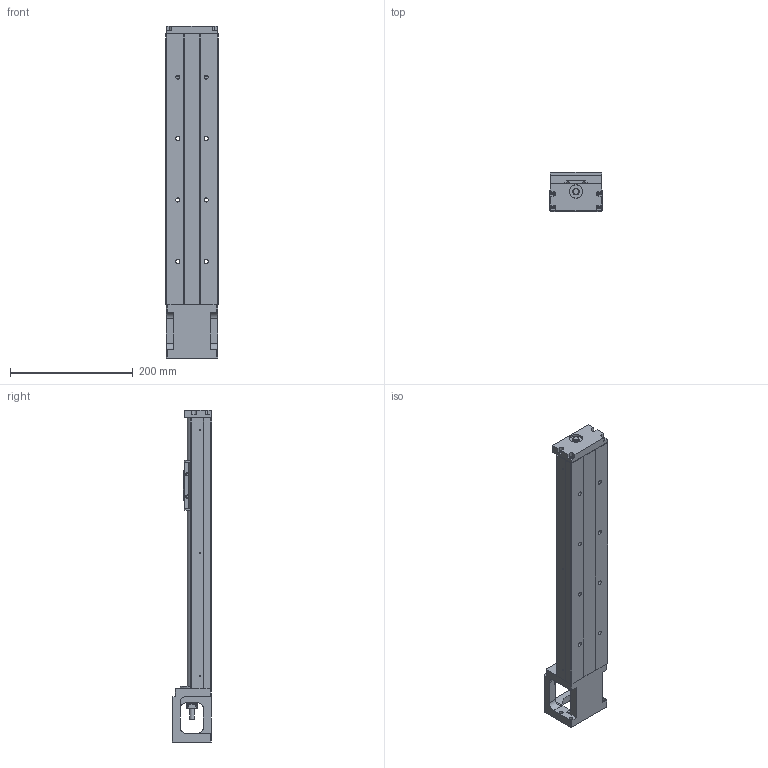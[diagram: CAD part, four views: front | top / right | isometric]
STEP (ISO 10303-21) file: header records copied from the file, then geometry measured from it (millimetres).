
FILE_DESCRIPTION(/* description */ (''),/* implementation_level */ '2;1');
FILE_NAME(/* name */ 'KP46S-440C02-1.stp',/* time_stamp */ '2020-07-03T11:53:40+08:00',/* author */ (''),/* organization */ (''),/* preprocessor_version */ 'ST-DEVELOPER v14',/* originating_system */ 'SIEMENS PLM Software NX 8.0',/* authorisation */ '');
FILE_SCHEMA (('AUTOMOTIVE_DESIGN { 1 0 10303 214 3 1 1 1 }'));
Length unit declared in the file: millimetre
Products named in the file (1): model2
Bounding box: 86 x 64 x 540 mm (x, y, z)
Volume: 1125018.7 mm3; surface area: 246685.8 mm2
Topology: 5 solids, 19 shells, 601 faces, 1579 edges, 1044 vertices
Faces by surface type: plane 281, cylinder 214, cone 57, bspline 41, torus 8
Full cylindrical faces by diameter (mm): 2 x2, 2.11 x2, 2.15 x6, 2.42 x6, 3 x4, 3.2 x4, 3.3 x6, 3.4 x8, 4 x2, 4.2 x4, 4.5 x8, 5 x6, 6 x8, 6.35 x2, 6.6 x8, 6.7 x2, 8 x1, 8.7 x4, 9.6 x1, 10 x3, 11 x8, 12 x1, 14.95 x2, 15 x1, 16 x2, 22 x3, 27.5 x1, 44 x1, 50 x1
Entity records: 30066 total; most frequent: CARTESIAN_POINT 12600, ORIENTED_EDGE 2712, DIRECTION 2673, EDGE_CURVE 1356, VERTEX_POINT 982, AXIS2_PLACEMENT_3D 979, EDGE_LOOP 841, LINE 715
